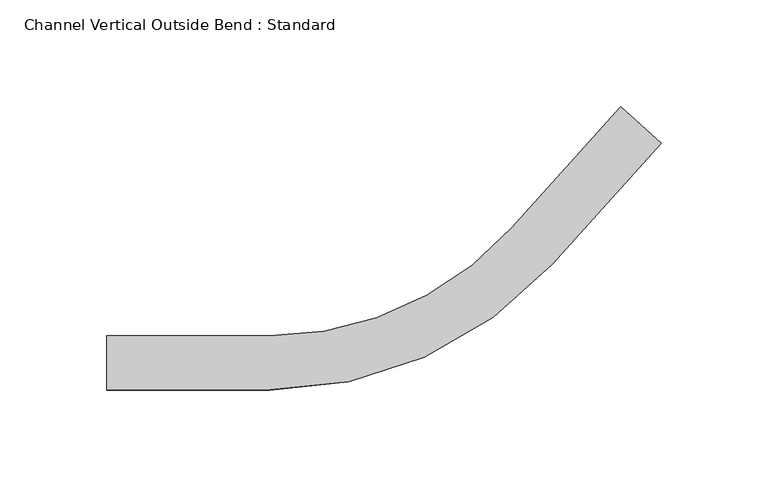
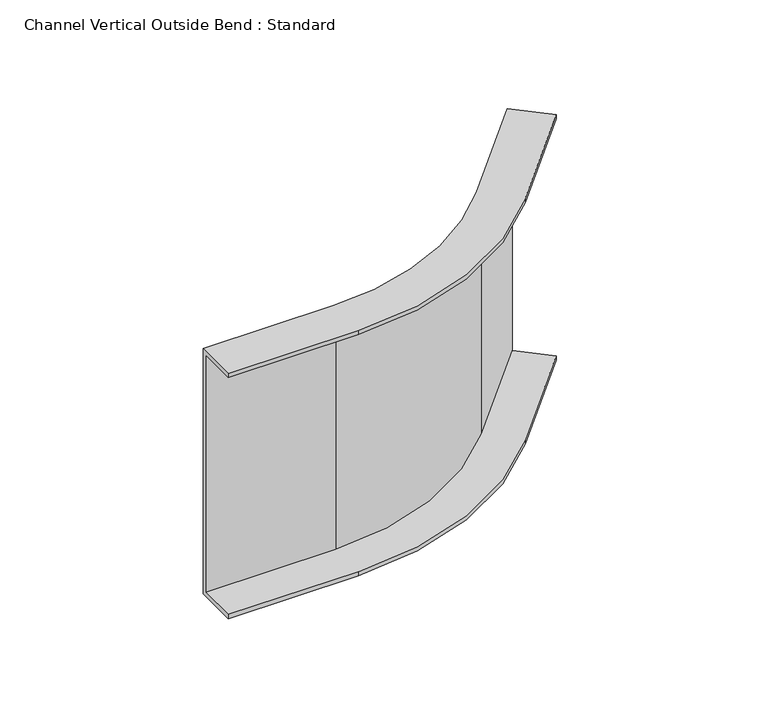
"""IFC4 building model written with IfcOpenShell, lengths in millimetres: cable carrier fitting geometry, Channel Vertical Outside Bend : Standard."""

from ifc_helpers import new_model, si_unit, frame, origin, place, context, project, spatial, polyline, circle_curve, source, transform, mapped, element, save
from ifc_brep_helpers import plane_surface, cylinder_surface, revolved_surface, advanced_brep


def channel_vertical_outside_bend_standard_53222440(model_context):
    return source(origin(), model_context, "Body", "AdvancedBrep", [
        advanced_brep(
        [(-149.7072559, -12.7, 76.2), (-149.7072559, 12.7, 76.2), (-149.7072559, 12.7, -76.2), (-149.7072559, -12.7, -76.2), (-149.7072559, -12.7, -73.66), (-149.7072559, 10.16, -73.66), (-149.7072559, 10.16, 73.66), (-149.7072559, -12.7, 73.66), (109.6116462, 102.7562139, 76.2), (109.6116462, 102.7562139, 73.66), (92.6233555, 118.0525396, 73.66), (92.6233555, 118.0525396, -73.66), (109.6116462, 102.7562139, -73.66), (109.6116462, 102.7562139, -76.2), (90.7357677, 119.7521313, -76.2), (90.7357677, 119.7521313, 76.2), (-73.5072559, -12.7, 76.2), (58.623894, 46.1285782, 76.2), (39.7480155, 63.1244956, 76.2), (-73.5072559, 12.7, 76.2), (-73.5072559, 12.7, -76.2), (39.7480155, 63.1244956, -76.2), (58.623894, 46.1285782, -76.2), (-73.5072559, -12.7, -76.2), (-73.5072559, -12.7, -73.66), (58.623894, 46.1285782, -73.66), (41.6356033, 61.4249039, -73.66), (-73.5072559, 10.16, -73.66), (-73.5072559, 10.16, 73.66), (41.6356033, 61.4249039, 73.66), (58.623894, 46.1285782, 73.66), (-73.5072559, -12.7, 73.66)],
        [
            (0, 1),
            (1, 2),
            (2, 3),
            (3, 4),
            (4, 5),
            (5, 6),
            (6, 7),
            (7, 0),
            (8, 9),
            (9, 10),
            (10, 11),
            (11, 12),
            (12, 13),
            (13, 14),
            (14, 15),
            (15, 8),
            (0, 16),
            (16, 17, circle_curve(frame((-73.5072559, 165.1, 76.2), z_axis=(0.0, 0.0, 1.0), x_axis=(0.0, -1.0, 0.0)), 177.8)),
            (17, 8),
            (15, 18),
            (18, 19, circle_curve(frame((-73.5072559, 165.1, 76.2), z_axis=(0.0, 0.0, -1.0), x_axis=(0.0, -1.0, 0.0)), 152.4)),
            (19, 1),
            (19, 20),
            (20, 2),
            (20, 21, circle_curve(frame((-73.5072559, 165.1, -76.2), z_axis=(0.0, 0.0, 1.0), x_axis=(0.0, -1.0, 0.0)), 152.4)),
            (21, 14),
            (13, 22),
            (22, 23, circle_curve(frame((-73.5072559, 165.1, -76.2), z_axis=(0.0, 0.0, -1.0), x_axis=(0.0, -1.0, 0.0)), 177.8)),
            (23, 3),
            (23, 24),
            (24, 4),
            (24, 25, circle_curve(frame((-73.5072559, 165.1, -73.66), z_axis=(0.0, 0.0, 1.0), x_axis=(0.0, -1.0, 0.0)), 177.8)),
            (25, 12),
            (11, 26),
            (26, 27, circle_curve(frame((-73.5072559, 165.1, -73.66), z_axis=(0.0, 0.0, -1.0), x_axis=(0.0, -1.0, 0.0)), 154.94)),
            (27, 5),
            (27, 28),
            (28, 6),
            (28, 29, circle_curve(frame((-73.5072559, 165.1, 73.66), z_axis=(0.0, 0.0, 1.0), x_axis=(0.0, -1.0, 0.0)), 154.94)),
            (29, 10),
            (9, 30),
            (30, 31, circle_curve(frame((-73.5072559, 165.1, 73.66), z_axis=(0.0, 0.0, -1.0), x_axis=(0.0, -1.0, 0.0)), 177.8)),
            (31, 7),
            (31, 16),
            (18, 21),
            (22, 25),
            (26, 29),
            (30, 17),
        ],
        [
            plane_surface(frame((-149.7072559, 0.0, 0.0), z_axis=(-1.0, 0.0, 0.0), x_axis=(0.0, 0.0, 1.0))),
            plane_surface(frame((100.1737069, 111.2541726, 0.0), z_axis=(0.6691306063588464, 0.743144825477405, 0.0), x_axis=(0.0, 0.0, 1.0))),
            plane_surface(frame((-149.7072559, -12.7, 76.2), z_axis=(0.0, 0.0, 1.0), x_axis=(1.0, 0.0, 0.0))),
            plane_surface(frame((-149.7072559, 12.7, 76.2), z_axis=(0.0, 1.0, 0.0), x_axis=(1.0, 0.0, 0.0))),
            plane_surface(frame((-149.7072559, 12.7, -76.2), z_axis=(0.0, 0.0, -1.0), x_axis=(1.0, 0.0, 0.0))),
            plane_surface(frame((-149.7072559, -12.7, -76.2), z_axis=(0.0, -1.0, 0.0), x_axis=(1.0, 0.0, 0.0))),
            plane_surface(frame((-149.7072559, -12.7, -73.66), z_axis=(0.0, 0.0, 1.0), x_axis=(1.0, 0.0, 0.0))),
            plane_surface(frame((-149.7072559, 10.16, -73.66), z_axis=(0.0, -1.0, 0.0), x_axis=(1.0, 0.0, 0.0))),
            plane_surface(frame((-149.7072559, 10.16, 73.66), z_axis=(0.0, 0.0, -1.0), x_axis=(1.0, 0.0, 0.0))),
            plane_surface(frame((-149.7072559, -12.7, 73.66), z_axis=(0.0, -1.0, 0.0), x_axis=(1.0, 0.0, 0.0))),
            revolved_surface(polyline([(-73.5072559, 12.699999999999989, 76.2), (-73.5072559, 12.699999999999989, -76.2)]), (-73.5072559, 165.1, 0.0), (0.0, 0.0, 1.0)),
            cylinder_surface(frame((-73.5072559, 165.1, 0.0), z_axis=(0.0, 0.0, 1.0), x_axis=(0.0, -1.0, 0.0)), 177.8),
            cylinder_surface(frame((-73.5072559, 165.1, 0.0), z_axis=(0.0, 0.0, 1.0), x_axis=(0.0, -1.0, 0.0)), 154.94),
            plane_surface(frame((39.7480155, 63.1244956, 76.2), z_axis=(-0.7431448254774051, 0.6691306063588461, 0.0), x_axis=(0.6691306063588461, 0.7431448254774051, 0.0))),
            plane_surface(frame((58.623894, 46.1285782, -76.2), z_axis=(0.7431448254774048, -0.6691306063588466, 0.0), x_axis=(0.6691306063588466, 0.7431448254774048, 0.0))),
            plane_surface(frame((41.6356033, 61.4249039, -73.66), z_axis=(0.743144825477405, -0.6691306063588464, 0.0), x_axis=(0.6691306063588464, 0.743144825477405, 0.0))),
            plane_surface(frame((58.623894, 46.1285782, 73.66), z_axis=(0.7431448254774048, -0.6691306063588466, 0.0), x_axis=(0.6691306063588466, 0.7431448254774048, 0.0))),
        ],
        [
            (0, [[1, 2, 3, 4, 5, 6, 7, 8]]),
            (1, [[9, 10, 11, 12, 13, 14, 15, 16]]),
            (2, [[-1, 17, 18, 19, -16, 20, 21, 22]]),
            (3, [[-2, -22, 23, 24]]),
            (4, [[-3, -24, 25, 26, -14, 27, 28, 29]]),
            (5, [[-4, -29, 30, 31]]),
            (6, [[-5, -31, 32, 33, -12, 34, 35, 36]]),
            (7, [[-6, -36, 37, 38]]),
            (8, [[-7, -38, 39, 40, -10, 41, 42, 43]]),
            (9, [[-8, -43, 44, -17]]),
            (10, [[-25, -23, -21, 45]]),
            (11, [[-32, -30, -28, 46]]),
            (12, [[-39, -37, -35, 47]]),
            (11, [[-18, -44, -42, 48]]),
            (13, [[-45, -20, -15, -26]]),
            (14, [[-46, -27, -13, -33]]),
            (15, [[-47, -34, -11, -40]]),
            (16, [[-48, -41, -9, -19]]),
        ],
    ),
    ])


if __name__ == "__main__":
    model = new_model("IFC4")
    model_context = context("Model", 3, world=origin())
    ifc_project = project(units=[si_unit("LENGTHUNIT", "METRE", prefix="MILLI")], contexts=[model_context])
    site = spatial("IfcSite", under=ifc_project)
    building = spatial("IfcBuilding", under=site)
    placement = place(None, origin())
    channel_vertical_outside_bend_standard_shape = channel_vertical_outside_bend_standard_53222440(model_context)
    element("IfcCableCarrierFitting", 1, ObjectType="Channel Vertical Outside Bend : Standard", at=placement, inside=building, context=model_context, shape_type="MappedRepresentation", body=[
        mapped(channel_vertical_outside_bend_standard_shape, transform((0.0, 0.0, 0.0), x_axis=(1.0, 0.0, 0.0), y_axis=(0.0, 1.0, 0.0), z_axis=(0.0, 0.0, 1.0))),
    ])
    save(model, "model.ifc")
